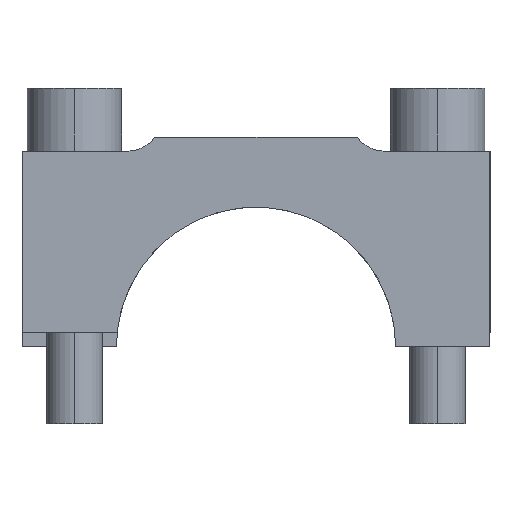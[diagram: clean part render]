
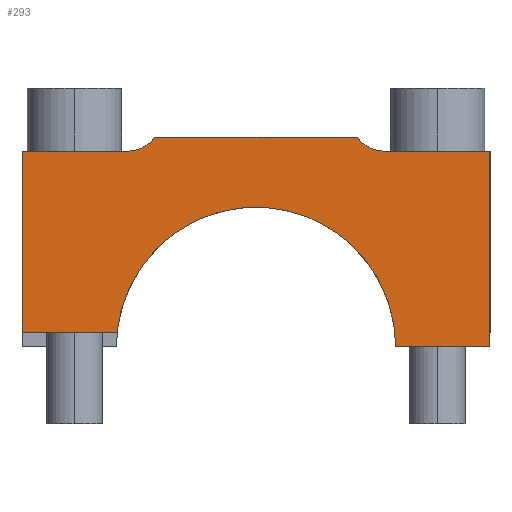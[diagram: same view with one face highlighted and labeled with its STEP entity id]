
A CAD part, left-side view. The second image highlights one B-rep face of the part: STEP entity #293.
In plain terms, the highlighted planar face has unit normal (-1, 0, 0).
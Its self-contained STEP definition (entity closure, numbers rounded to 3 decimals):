
#293=ADVANCED_FACE('Solid.241',(#748),#749,.T.);
#748=FACE_OUTER_BOUND('',#1409,.T.);
#749=PLANE('',#1410);
#1409=EDGE_LOOP('',(#2074,#2075,#2076,#2077,#2078,#2079,#2080,#2081,#2082,#2083));
#1410=AXIS2_PLACEMENT_3D('',#2084,#2085,#2086);
#2074=ORIENTED_EDGE('',*,*,#3978,.T.);
#2075=ORIENTED_EDGE('',*,*,#3961,.T.);
#2076=ORIENTED_EDGE('',*,*,#3979,.T.);
#2077=ORIENTED_EDGE('',*,*,#3966,.T.);
#2078=ORIENTED_EDGE('',*,*,#3980,.T.);
#2079=ORIENTED_EDGE('',*,*,#3971,.T.);
#2080=ORIENTED_EDGE('',*,*,#3981,.T.);
#2081=ORIENTED_EDGE('',*,*,#3976,.T.);
#2082=ORIENTED_EDGE('',*,*,#3982,.T.);
#2083=ORIENTED_EDGE('',*,*,#3983,.T.);
#2084=CARTESIAN_POINT('',(-41.,0.0,0.));
#2085=DIRECTION('',(-1.0,0.,0.));
#2086=DIRECTION('',(0.,-1.0,0.));
#3961=EDGE_CURVE('',#4736,#4741,#4743,.T.);
#3966=EDGE_CURVE('',#4745,#4750,#4752,.F.);
#3971=EDGE_CURVE('',#4754,#4759,#4761,.F.);
#3976=EDGE_CURVE('',#4763,#4768,#4770,.T.);
#3978=EDGE_CURVE('',#4772,#4736,#4773,.T.);
#3979=EDGE_CURVE('',#4741,#4745,#4774,.T.);
#3980=EDGE_CURVE('',#4750,#4754,#4775,.T.);
#3981=EDGE_CURVE('',#4759,#4763,#4776,.T.);
#3982=EDGE_CURVE('',#4768,#4777,#4778,.T.);
#3983=EDGE_CURVE('',#4777,#4772,#4779,.F.);
#4736=VERTEX_POINT('',#5880);
#4741=VERTEX_POINT('',#5887);
#4743=LINE('',#5890,#5891);
#4745=VERTEX_POINT('',#5893);
#4750=VERTEX_POINT('',#5899);
#4752=CIRCLE('',#5902,5.0);
#4754=VERTEX_POINT('',#5904);
#4759=VERTEX_POINT('',#5910);
#4761=CIRCLE('',#5913,5.0);
#4763=VERTEX_POINT('',#5915);
#4768=VERTEX_POINT('',#5922);
#4770=LINE('',#5925,#5926);
#4772=VERTEX_POINT('',#5928);
#4773=LINE('',#5929,#5930);
#4774=LINE('',#5931,#5932);
#4775=LINE('',#5933,#5934);
#4776=LINE('',#5935,#5936);
#4777=VERTEX_POINT('',#5937);
#4778=LINE('',#5938,#5939);
#4779=CIRCLE('',#5940,20.0);
#5880=CARTESIAN_POINT('',(-41.,-33.5,0.));
#5887=CARTESIAN_POINT('',(-41.,-33.5,28.));
#5890=CARTESIAN_POINT('',(-41.,-33.5,14.));
#5891=VECTOR('',#7606,1.0);
#5893=CARTESIAN_POINT('',(-41.,-18.5,28.0));
#5899=CARTESIAN_POINT('',(-41.,-14.5,30.0));
#5902=AXIS2_PLACEMENT_3D('',#7612,#7613,#7614);
#5904=CARTESIAN_POINT('',(-41.0,14.5,30.0));
#5910=CARTESIAN_POINT('',(-41.0,18.5,28.0));
#5913=AXIS2_PLACEMENT_3D('',#7620,#7621,#7622);
#5915=CARTESIAN_POINT('',(-41.0,33.5,28.0));
#5922=CARTESIAN_POINT('',(-41.,33.5,2.));
#5925=CARTESIAN_POINT('',(-41.0,33.5,15.));
#5926=VECTOR('',#7626,1.0);
#5928=CARTESIAN_POINT('',(-41.,-20.,0.));
#5929=CARTESIAN_POINT('',(-41.,-26.75,0.));
#5930=VECTOR('',#7627,1.0);
#5931=CARTESIAN_POINT('',(-41.,-26.0,28.0));
#5932=VECTOR('',#7628,1.0);
#5933=CARTESIAN_POINT('',(-41.,0.,30.0));
#5934=VECTOR('',#7629,1.0);
#5935=CARTESIAN_POINT('',(-41.0,26.0,28.0));
#5936=VECTOR('',#7630,1.0);
#5937=CARTESIAN_POINT('',(-41.,19.9,2.));
#5938=CARTESIAN_POINT('',(-41.,26.7,2.));
#5939=VECTOR('',#7631,1.0);
#5940=AXIS2_PLACEMENT_3D('',#7632,#7633,#7634);
#7606=DIRECTION('',(0.,0.0,1.0));
#7612=CARTESIAN_POINT('',(-41.,-18.5,33.0));
#7613=DIRECTION('',(-1.0,0.,0.));
#7614=DIRECTION('',(0.,-1.0,0.));
#7620=CARTESIAN_POINT('',(-41.0,18.5,33.0));
#7621=DIRECTION('',(-1.0,0.,0.));
#7622=DIRECTION('',(0.,-1.0,0.));
#7626=DIRECTION('',(0.,0.0,-1.0));
#7627=DIRECTION('',(0.,-1.0,0.));
#7628=DIRECTION('',(0.,1.0,0.));
#7629=DIRECTION('',(0.,1.0,0.0));
#7630=DIRECTION('',(0.,1.0,0.));
#7631=DIRECTION('',(0.,-1.0,0.));
#7632=CARTESIAN_POINT('',(-41.,0.,0.));
#7633=DIRECTION('',(-1.0,0.,0.));
#7634=DIRECTION('',(0.,-1.0,0.));
